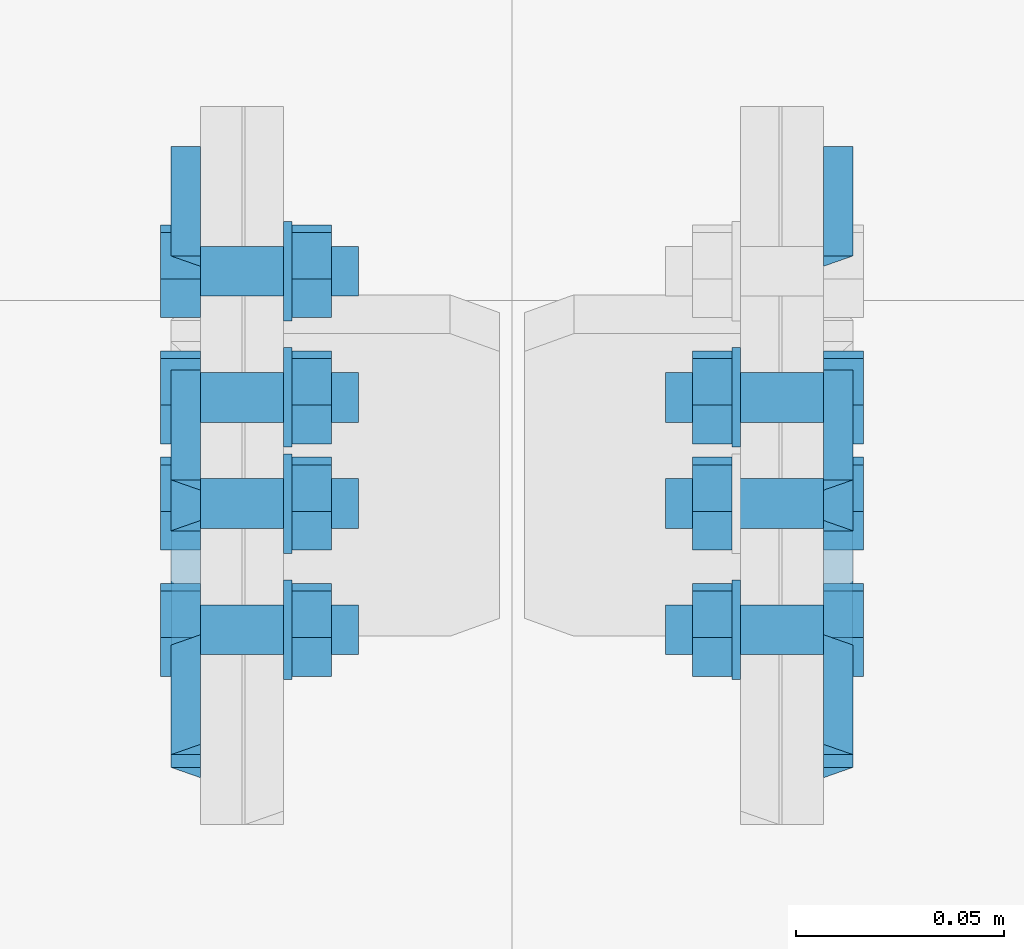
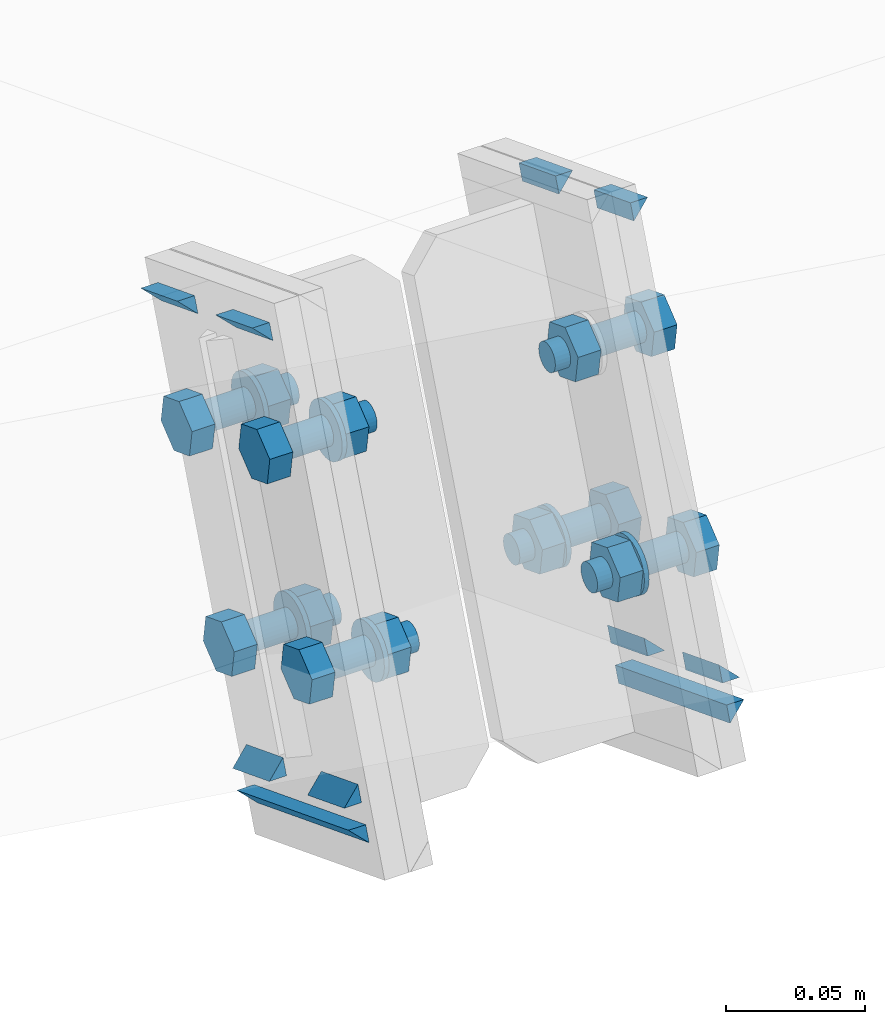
# One storey, part 37 of 72: 27 mechanical fasteners, 20 fasteners.
"""IFC4 building model written with IfcOpenShell, lengths in metres."""

from ifc_helpers import new_model, si_unit, frame, origin_with_axes, place, context, project, spatial, polyline, outline, extrude, type_object, element, save


model = new_model("IFC4")

# Units and contexts
model_context = context("Model", 3, precision=1e-05, world=origin_with_axes())
ifc_project = project(units=[si_unit("LENGTHUNIT", "METRE"), si_unit("AREAUNIT", "SQUARE_METRE"), si_unit("VOLUMEUNIT", "CUBIC_METRE"), si_unit("MASSUNIT", "GRAM", prefix="KILO"), si_unit("TIMEUNIT", "SECOND"), si_unit("PLANEANGLEUNIT", "RADIAN"), si_unit("SOLIDANGLEUNIT", "STERADIAN"), si_unit("THERMODYNAMICTEMPERATUREUNIT", "DEGREE_CELSIUS")], contexts=[model_context])

# Site, building, storey
placement_1 = place(None, origin_with_axes())
site = spatial("IfcSite", under=ifc_project, at=placement_1, Name="Italia", CompositionType="ELEMENT")
building = spatial("IfcBuilding", under=site, at=placement_1, Name="Uffici", CompositionType="ELEMENT")
storey = spatial("IfcBuildingStorey", under=building, at=placement_1, Name="Storey 0", CompositionType="ELEMENT", Elevation=0.0)

# Fasteners
fastener_type_1 = type_object("IfcFastenerType", Name="Collegamento -028_-027", PredefinedType="WELD")
placement_2 = place(placement_1, origin_with_axes())
fastener_1_placement = place(placement_2, origin_with_axes())
element("IfcFastener", 1, at=fastener_1_placement, inside=storey, type_object=fastener_type_1, Name="Collegamento -028_-027", context=model_context, shape_type="SweptSolid", body=[
    extrude(outline(polyline([(0.0, 0.0), (-0.00717354, 0.00695848), (0.0, 0.00695848), (0.0, 0.0)])), frame((6.68005, 1.6679, 6.57674), z_axis=(0.0, -0.932384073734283, 0.361469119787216), x_axis=(1.0, 0.0, 0.0)), (0.0, 0.0, 1.0), 0.0283),
])
fastener_type_2 = type_object("IfcFastenerType", Name="Collegamento -028_-027", PredefinedType="WELD")
fastener_2_placement = place(placement_2, origin_with_axes())
element("IfcFastener", 2, at=fastener_2_placement, inside=storey, type_object=fastener_type_2, Name="Collegamento -028_-027", context=model_context, shape_type="SweptSolid", body=[
    extrude(outline(polyline([(0.0, 0.0), (0.00717354, -0.00695848), (0.0, -0.00695848), (0.0, 0.0)])), frame((6.68005, 1.58036, 6.42922), z_axis=(0.0, 0.932390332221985, -0.361453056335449), x_axis=(-1.0, 0.0, 0.0)), (0.0, 0.0, 1.0), 0.0283),
])
fastener_type_3 = type_object("IfcFastenerType", Name="Collegamento -028_-027", PredefinedType="WELD")
fastener_3_placement = place(placement_2, origin_with_axes())
element("IfcFastener", 3, at=fastener_3_placement, inside=storey, type_object=fastener_type_3, Name="Collegamento -028_-027", context=model_context, shape_type="SweptSolid", body=[
    extrude(outline(polyline([(0.0, 0.0), (-0.00717354, 0.00695753), (0.0, 0.00695753), (0.0, 0.0)])), frame((6.68005, 1.59868, 6.39819), z_axis=(0.0, -0.932389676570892, 0.361454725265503), x_axis=(1.0, 0.0, 0.0)), (0.0, 0.0, 1.0), 0.0861),
])
fastener_type_4 = type_object("IfcFastenerType", Name="Collegamento -028_-027", PredefinedType="WELD")
fastener_4_placement = place(placement_2, origin_with_axes())
element("IfcFastener", 4, at=fastener_4_placement, inside=storey, type_object=fastener_type_4, Name="Collegamento -028_-027", context=model_context, shape_type="SweptSolid", body=[
    extrude(outline(polyline([(0.0, 0.0), (0.00717354, -0.00695848), (0.0, -0.00695848), (0.0, 0.0)])), frame((6.68005, 1.52647, 6.45012), z_axis=(0.0, 0.932391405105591, -0.3614501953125), x_axis=(-1.0, 0.0, 0.0)), (0.0, 0.0, 1.0), 0.0283002),
])
fastener_type_5 = type_object("IfcFastenerType", Name="Collegamento -028_-027", PredefinedType="WELD")
fastener_5_placement = place(placement_2, origin_with_axes())
element("IfcFastener", 5, at=fastener_5_placement, inside=storey, type_object=fastener_type_5, Name="Collegamento -028_-027", context=model_context, shape_type="SweptSolid", body=[
    extrude(outline(polyline([(0.0, 0.0), (-0.00717354, 0.00695753), (0.0, 0.00695753), (0.0, 0.0)])), frame((6.68005, 1.61401, 6.59763), z_axis=(0.0, -0.932389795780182, 0.361454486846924), x_axis=(1.0, 0.0, 0.0)), (0.0, 0.0, 1.0), 0.0282999),
])
fastener_type_6 = type_object("IfcFastenerType", Name="Collegamento -028_-027", PredefinedType="WELD")
fastener_6_placement = place(placement_2, origin_with_axes())
element("IfcFastener", 6, at=fastener_6_placement, inside=storey, type_object=fastener_type_6, Name="Collegamento -028_-027", context=model_context, shape_type="SweptSolid", body=[
    extrude(outline(polyline([(0.0, 0.0), (-0.00717354, 0.00695848), (0.0, 0.00695848), (0.0, 0.0)])), frame((6.68005, 1.6679, 6.57674), z_axis=(0.0, -0.932384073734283, 0.361469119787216), x_axis=(1.0, 0.0, 0.0)), (0.0, 0.0, 1.0), 0.0283),
])
fastener_type_7 = type_object("IfcFastenerType", Name="Collegamento -028_-027", PredefinedType="WELD")
fastener_7_placement = place(placement_2, origin_with_axes())
element("IfcFastener", 7, at=fastener_7_placement, inside=storey, type_object=fastener_type_7, Name="Collegamento -028_-027", context=model_context, shape_type="SweptSolid", body=[
    extrude(outline(polyline([(0.0, 0.0), (0.00717354, -0.00695848), (0.0, -0.00695848), (0.0, 0.0)])), frame((6.68005, 1.58036, 6.42922), z_axis=(0.0, 0.932390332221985, -0.361453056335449), x_axis=(-1.0, 0.0, 0.0)), (0.0, 0.0, 1.0), 0.0283),
])
fastener_type_8 = type_object("IfcFastenerType", Name="Collegamento -028_-027", PredefinedType="WELD")
fastener_8_placement = place(placement_2, origin_with_axes())
element("IfcFastener", 8, at=fastener_8_placement, inside=storey, type_object=fastener_type_8, Name="Collegamento -028_-027", context=model_context, shape_type="SweptSolid", body=[
    extrude(outline(polyline([(0.0, 0.0), (-0.00717354, 0.00695753), (0.0, 0.00695753), (0.0, 0.0)])), frame((6.68005, 1.59868, 6.39819), z_axis=(0.0, -0.932389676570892, 0.361454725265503), x_axis=(1.0, 0.0, 0.0)), (0.0, 0.0, 1.0), 0.0861),
])
fastener_type_9 = type_object("IfcFastenerType", Name="Collegamento -028_-027", PredefinedType="WELD")
fastener_9_placement = place(placement_2, origin_with_axes())
element("IfcFastener", 9, at=fastener_9_placement, inside=storey, type_object=fastener_type_9, Name="Collegamento -028_-027", context=model_context, shape_type="SweptSolid", body=[
    extrude(outline(polyline([(0.0, 0.0), (0.00717354, -0.00695848), (0.0, -0.00695848), (0.0, 0.0)])), frame((6.68005, 1.52647, 6.45012), z_axis=(0.0, 0.932391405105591, -0.3614501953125), x_axis=(-1.0, 0.0, 0.0)), (0.0, 0.0, 1.0), 0.0283002),
])
fastener_type_10 = type_object("IfcFastenerType", Name="Collegamento -028_-027", PredefinedType="WELD")
fastener_10_placement = place(placement_2, origin_with_axes())
element("IfcFastener", 10, at=fastener_10_placement, inside=storey, type_object=fastener_type_10, Name="Collegamento -028_-027", context=model_context, shape_type="SweptSolid", body=[
    extrude(outline(polyline([(0.0, 0.0), (-0.00717354, 0.00695753), (0.0, 0.00695753), (0.0, 0.0)])), frame((6.68005, 1.61401, 6.59763), z_axis=(0.0, -0.932389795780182, 0.361454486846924), x_axis=(1.0, 0.0, 0.0)), (0.0, 0.0, 1.0), 0.0282999),
])

# Mechanical fasteners
mechanical_fastener_type_1 = type_object("IfcMechanicalFastenerType", Name="Collegamento -028_-027", PredefinedType="BOLT")
mechanical_fastener_1_placement = place(placement_2, origin_with_axes())
element("IfcMechanicalFastener", 11, at=mechanical_fastener_1_placement, inside=storey, type_object=mechanical_fastener_type_1, Name="Collegamento -028_-027", NominalDiameter=0.0119998, context=model_context, shape_type="SweptSolid", body=[
    extrude(outline(polyline([(0.0, 0.0), (-0.0111887, -0.00433731), (-0.0205394, 0.00318336), (-0.0187016, 0.0150418), (-0.00751293, 0.0193796), (0.00183785, 0.0118585), (0.0, 0.0)])), frame((6.68, 1.60063, 6.4559), z_axis=(-1.0, 0.0, 0.0), x_axis=(0.0, -1.0, 0.0)), (0.0, 0.0, 1.0), 0.00960016),
])
mechanical_fastener_type_2 = type_object("IfcMechanicalFastenerType", Name="Collegamento -028_-027", PredefinedType="BOLT")
mechanical_fastener_2_placement = place(placement_2, origin_with_axes())
element("IfcMechanicalFastener", 12, at=mechanical_fastener_2_placement, inside=storey, type_object=mechanical_fastener_type_2, Name="Collegamento -028_-027", NominalDiameter=0.012, context=model_context, shape_type="SweptSolid", body=[
    extrude(outline(polyline([(0.0, 0.0), (-0.000204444, -0.00155306), (-0.000803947, -0.00299978), (-0.00175738, -0.00424242), (-0.00300002, -0.00519609), (-0.0044471, -0.00579548), (-0.00600004, -0.00600004), (-0.00755298, -0.00579548), (-0.00900006, -0.00519609), (-0.0102427, -0.00424242), (-0.0111961, -0.00299978), (-0.0117956, -0.00155306), (-0.0120001, 0.0), (-0.0117956, 0.00155306), (-0.0111961, 0.00299978), (-0.0102427, 0.00424242), (-0.00900006, 0.00519609), (-0.00755298, 0.00579548), (-0.00600004, 0.00600004), (-0.0044471, 0.00579548), (-0.00300002, 0.00519609), (-0.00175738, 0.00424242), (-0.000803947, 0.00299978), (-0.000204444, 0.00155306), (0.0, 0.0)])), frame((6.718, 1.60398, 6.46342), z_axis=(-1.0, 0.0, 0.0), x_axis=(0.0, -1.0, 0.0)), (0.0, 0.0, 1.0), 0.0380001),
])
mechanical_fastener_type_3 = type_object("IfcMechanicalFastenerType", Name="Collegamento -028_-027", PredefinedType="BOLT")
mechanical_fastener_3_placement = place(placement_2, origin_with_axes())
element("IfcMechanicalFastener", 13, at=mechanical_fastener_3_placement, inside=storey, type_object=mechanical_fastener_type_3, Name="Collegamento -028_-027", NominalDiameter=0.0119998, context=model_context, shape_type="SweptSolid", body=[
    extrude(outline(polyline([(0.0, 0.0), (-0.0111887, -0.00433731), (-0.0205394, 0.00318336), (-0.0187016, 0.0150418), (-0.00751293, 0.0193796), (0.00183785, 0.0118585), (0.0, 0.0)])), frame((6.7116, 1.60063, 6.4559), z_axis=(-1.0, 0.0, 0.0), x_axis=(0.0, -1.0, 0.0)), (0.0, 0.0, 1.0), 0.00960016),
])
mechanical_fastener_type_4 = type_object("IfcMechanicalFastenerType", Name="Collegamento -028_-027", PredefinedType="BOLT")
mechanical_fastener_4_placement = place(placement_2, origin_with_axes())
element("IfcMechanicalFastener", 14, at=mechanical_fastener_4_placement, inside=storey, type_object=mechanical_fastener_type_4, Name="Collegamento -028_-027", NominalDiameter=0.024, context=model_context, shape_type="SweptSolid", body=[
    extrude(outline(polyline([(0.0, 0.0), (-0.000408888, -0.00310564), (-0.00160766, -0.00600004), (-0.00351465, -0.00848532), (-0.00599992, -0.0103922), (-0.00889409, -0.011591), (-0.012, -0.0120001), (-0.0151058, -0.011591), (-0.018, -0.0103922), (-0.0204853, -0.00848532), (-0.0223923, -0.00600004), (-0.023591, -0.00310564), (-0.0239999, 0.0), (-0.023591, 0.00310564), (-0.0223923, 0.00600004), (-0.0204853, 0.00848532), (-0.018, 0.0103922), (-0.0151058, 0.011591), (-0.012, 0.0120001), (-0.00889409, 0.011591), (-0.00599992, 0.0103922), (-0.00351465, 0.00848532), (-0.00160766, 0.00600004), (-0.000408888, 0.00310564), (0.0, 0.0)])), frame((6.702, 1.59798, 6.46342), z_axis=(-1.0, 0.0, 0.0), x_axis=(0.0, -1.0, 0.0)), (0.0, 0.0, 1.0), 0.00199986),
])
mechanical_fastener_type_5 = type_object("IfcMechanicalFastenerType", Name="Collegamento -028_-027", PredefinedType="BOLT")
mechanical_fastener_5_placement = place(placement_2, origin_with_axes())
element("IfcMechanicalFastener", 15, at=mechanical_fastener_5_placement, inside=storey, type_object=mechanical_fastener_type_5, Name="Collegamento -028_-027", NominalDiameter=0.0119999, context=model_context, shape_type="SweptSolid", body=[
    extrude(outline(polyline([(0.0, 0.0), (-0.0111886, -0.00433779), (-0.0205393, 0.00318336), (-0.0187014, 0.0150418), (-0.00751281, 0.0193791), (0.00183797, 0.0118585), (0.0, 0.0)])), frame((6.68, 1.54468, 6.47759), z_axis=(-1.0, 0.0, 0.0), x_axis=(0.0, -1.0, 0.0)), (0.0, 0.0, 1.0), 0.00960016),
])
mechanical_fastener_type_6 = type_object("IfcMechanicalFastenerType", Name="Collegamento -028_-027", PredefinedType="BOLT")
mechanical_fastener_6_placement = place(placement_2, origin_with_axes())
element("IfcMechanicalFastener", 16, at=mechanical_fastener_6_placement, inside=storey, type_object=mechanical_fastener_type_6, Name="Collegamento -028_-027", NominalDiameter=0.012, context=model_context, shape_type="SweptSolid", body=[
    extrude(outline(polyline([(0.0, 0.0), (-0.000204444, -0.00155306), (-0.000803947, -0.00299978), (-0.00175738, -0.00424242), (-0.00300002, -0.00519609), (-0.0044471, -0.00579548), (-0.00600004, -0.00600004), (-0.00755298, -0.00579548), (-0.00900006, -0.00519609), (-0.0102427, -0.00424242), (-0.0111961, -0.00299978), (-0.0117956, -0.00155306), (-0.0120001, 0.0), (-0.0117956, 0.00155306), (-0.0111961, 0.00299978), (-0.0102427, 0.00424242), (-0.00900006, 0.00519609), (-0.00755298, 0.00579548), (-0.00600004, 0.00600004), (-0.0044471, 0.00579548), (-0.00300002, 0.00519609), (-0.00175738, 0.00424242), (-0.000803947, 0.00299978), (-0.000204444, 0.00155306), (0.0, 0.0)])), frame((6.718, 1.54803, 6.48511), z_axis=(-1.0, 0.0, 0.0), x_axis=(0.0, -1.0, 0.0)), (0.0, 0.0, 1.0), 0.0380001),
])
mechanical_fastener_type_7 = type_object("IfcMechanicalFastenerType", Name="Collegamento -028_-027", PredefinedType="BOLT")
mechanical_fastener_7_placement = place(placement_2, origin_with_axes())
element("IfcMechanicalFastener", 17, at=mechanical_fastener_7_placement, inside=storey, type_object=mechanical_fastener_type_7, Name="Collegamento -028_-027", NominalDiameter=0.0119999, context=model_context, shape_type="SweptSolid", body=[
    extrude(outline(polyline([(0.0, 0.0), (-0.0111886, -0.00433779), (-0.0205393, 0.00318336), (-0.0187014, 0.0150418), (-0.00751281, 0.0193791), (0.00183797, 0.0118585), (0.0, 0.0)])), frame((6.7116, 1.54468, 6.47759), z_axis=(-1.0, 0.0, 0.0), x_axis=(0.0, -1.0, 0.0)), (0.0, 0.0, 1.0), 0.00960016),
])
mechanical_fastener_type_8 = type_object("IfcMechanicalFastenerType", Name="Collegamento -028_-027", PredefinedType="BOLT")
mechanical_fastener_8_placement = place(placement_2, origin_with_axes())
element("IfcMechanicalFastener", 18, at=mechanical_fastener_8_placement, inside=storey, type_object=mechanical_fastener_type_8, Name="Collegamento -028_-027", NominalDiameter=0.024, context=model_context, shape_type="SweptSolid", body=[
    extrude(outline(polyline([(0.0, 0.0), (-0.000408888, -0.00310564), (-0.00160766, -0.00600004), (-0.00351465, -0.00848532), (-0.00599992, -0.0103922), (-0.00889409, -0.011591), (-0.012, -0.0120001), (-0.0151058, -0.011591), (-0.018, -0.0103922), (-0.0204853, -0.00848532), (-0.0223923, -0.00600004), (-0.023591, -0.00310564), (-0.0239999, 0.0), (-0.023591, 0.00310564), (-0.0223923, 0.00600004), (-0.0204853, 0.00848532), (-0.018, 0.0103922), (-0.0151058, 0.011591), (-0.012, 0.0120001), (-0.00889409, 0.011591), (-0.00599992, 0.0103922), (-0.00351465, 0.00848532), (-0.00160766, 0.00600004), (-0.000408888, 0.00310564), (0.0, 0.0)])), frame((6.702, 1.54203, 6.48511), z_axis=(-1.0, 0.0, 0.0), x_axis=(0.0, -1.0, 0.0)), (0.0, 0.0, 1.0), 0.00199986),
])
mechanical_fastener_type_9 = type_object("IfcMechanicalFastenerType", Name="Collegamento -028_-027", PredefinedType="BOLT")
mechanical_fastener_9_placement = place(placement_2, origin_with_axes())
element("IfcMechanicalFastener", 19, at=mechanical_fastener_9_placement, inside=storey, type_object=mechanical_fastener_type_9, Name="Collegamento -028_-027", NominalDiameter=0.0119999, context=model_context, shape_type="SweptSolid", body=[
    extrude(outline(polyline([(0.0, 0.0), (-0.0111886, -0.00433731), (-0.0205394, 0.00318336), (-0.0187014, 0.0150418), (-0.00751281, 0.0193796), (0.00183785, 0.0118585), (0.0, 0.0)])), frame((6.68, 1.63099, 6.53422), z_axis=(-1.0, 0.0, 0.0), x_axis=(0.0, -1.0, 0.0)), (0.0, 0.0, 1.0), 0.00960016),
])
mechanical_fastener_type_10 = type_object("IfcMechanicalFastenerType", Name="Collegamento -028_-027", PredefinedType="BOLT")
mechanical_fastener_10_placement = place(placement_2, origin_with_axes())
element("IfcMechanicalFastener", 20, at=mechanical_fastener_10_placement, inside=storey, type_object=mechanical_fastener_type_10, Name="Collegamento -028_-027", NominalDiameter=0.012, context=model_context, shape_type="SweptSolid", body=[
    extrude(outline(polyline([(0.0, 0.0), (-0.000204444, -0.00155306), (-0.000803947, -0.00299978), (-0.00175738, -0.00424242), (-0.00300002, -0.00519609), (-0.0044471, -0.00579548), (-0.00600004, -0.00600004), (-0.00755298, -0.00579548), (-0.00900006, -0.00519609), (-0.0102427, -0.00424242), (-0.0111961, -0.00299978), (-0.0117956, -0.00155306), (-0.0120001, 0.0), (-0.0117956, 0.00155306), (-0.0111961, 0.00299978), (-0.0102427, 0.00424242), (-0.00900006, 0.00519609), (-0.00755298, 0.00579548), (-0.00600004, 0.00600004), (-0.0044471, 0.00579548), (-0.00300002, 0.00519609), (-0.00175738, 0.00424242), (-0.000803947, 0.00299978), (-0.000204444, 0.00155306), (0.0, 0.0)])), frame((6.718, 1.63434, 6.54174), z_axis=(-1.0, 0.0, 0.0), x_axis=(0.0, -1.0, 0.0)), (0.0, 0.0, 1.0), 0.0380001),
])
mechanical_fastener_type_11 = type_object("IfcMechanicalFastenerType", Name="Collegamento -028_-027", PredefinedType="BOLT")
mechanical_fastener_11_placement = place(placement_2, origin_with_axes())
element("IfcMechanicalFastener", 21, at=mechanical_fastener_11_placement, inside=storey, type_object=mechanical_fastener_type_11, Name="Collegamento -028_-027", NominalDiameter=0.0119999, context=model_context, shape_type="SweptSolid", body=[
    extrude(outline(polyline([(0.0, 0.0), (-0.0111886, -0.00433731), (-0.0205394, 0.00318336), (-0.0187014, 0.0150418), (-0.00751281, 0.0193796), (0.00183785, 0.0118585), (0.0, 0.0)])), frame((6.7116, 1.63099, 6.53422), z_axis=(-1.0, 0.0, 0.0), x_axis=(0.0, -1.0, 0.0)), (0.0, 0.0, 1.0), 0.00960016),
])
mechanical_fastener_type_12 = type_object("IfcMechanicalFastenerType", Name="Collegamento -028_-027", PredefinedType="BOLT")
mechanical_fastener_12_placement = place(placement_2, origin_with_axes())
element("IfcMechanicalFastener", 22, at=mechanical_fastener_12_placement, inside=storey, type_object=mechanical_fastener_type_12, Name="Collegamento -028_-027", NominalDiameter=0.024, context=model_context, shape_type="SweptSolid", body=[
    extrude(outline(polyline([(0.0, 0.0), (-0.000408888, -0.00310564), (-0.00160766, -0.00600004), (-0.00351465, -0.00848532), (-0.00599992, -0.0103922), (-0.00889409, -0.011591), (-0.012, -0.0120001), (-0.0151058, -0.011591), (-0.018, -0.0103922), (-0.0204853, -0.00848532), (-0.0223923, -0.00600004), (-0.023591, -0.00310564), (-0.0239999, 0.0), (-0.023591, 0.00310564), (-0.0223923, 0.00600004), (-0.0204853, 0.00848532), (-0.018, 0.0103922), (-0.0151058, 0.011591), (-0.012, 0.0120001), (-0.00889409, 0.011591), (-0.00599992, 0.0103922), (-0.00351465, 0.00848532), (-0.00160766, 0.00600004), (-0.000408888, 0.00310564), (0.0, 0.0)])), frame((6.702, 1.62834, 6.54174), z_axis=(-1.0, 0.0, 0.0), x_axis=(0.0, -1.0, 0.0)), (0.0, 0.0, 1.0), 0.00199986),
])
mechanical_fastener_type_13 = type_object("IfcMechanicalFastenerType", Name="Collegamento -028_-027", PredefinedType="BOLT")
mechanical_fastener_13_placement = place(placement_2, origin_with_axes())
element("IfcMechanicalFastener", 23, at=mechanical_fastener_13_placement, inside=storey, type_object=mechanical_fastener_type_13, Name="Collegamento -028_-027", NominalDiameter=0.0119998, context=model_context, shape_type="SweptSolid", body=[
    extrude(outline(polyline([(0.0, 0.0), (-0.0111886, -0.00433779), (-0.0205394, 0.00318336), (-0.0187016, 0.0150418), (-0.00751281, 0.0193791), (0.00183785, 0.0118585), (0.0, 0.0)])), frame((6.68, 1.57505, 6.55591), z_axis=(-1.0, 0.0, 0.0), x_axis=(0.0, -1.0, 0.0)), (0.0, 0.0, 1.0), 0.00960016),
])
mechanical_fastener_type_14 = type_object("IfcMechanicalFastenerType", Name="Collegamento -028_-027", PredefinedType="BOLT")
mechanical_fastener_14_placement = place(placement_2, origin_with_axes())
element("IfcMechanicalFastener", 24, at=mechanical_fastener_14_placement, inside=storey, type_object=mechanical_fastener_type_14, Name="Collegamento -028_-027", NominalDiameter=0.012, context=model_context, shape_type="SweptSolid", body=[
    extrude(outline(polyline([(0.0, 0.0), (-0.000204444, -0.00155306), (-0.000803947, -0.00299978), (-0.00175738, -0.00424242), (-0.00300002, -0.00519609), (-0.0044471, -0.00579548), (-0.00600004, -0.00600004), (-0.00755298, -0.00579548), (-0.00900006, -0.00519609), (-0.0102427, -0.00424242), (-0.0111961, -0.00299978), (-0.0117956, -0.00155306), (-0.0120001, 0.0), (-0.0117956, 0.00155306), (-0.0111961, 0.00299978), (-0.0102427, 0.00424242), (-0.00900006, 0.00519609), (-0.00755298, 0.00579548), (-0.00600004, 0.00600004), (-0.0044471, 0.00579548), (-0.00300002, 0.00519609), (-0.00175738, 0.00424242), (-0.000803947, 0.00299978), (-0.000204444, 0.00155306), (0.0, 0.0)])), frame((6.718, 1.5784, 6.56343), z_axis=(-1.0, 0.0, 0.0), x_axis=(0.0, -1.0, 0.0)), (0.0, 0.0, 1.0), 0.0380001),
])
mechanical_fastener_type_15 = type_object("IfcMechanicalFastenerType", Name="Collegamento -028_-027", PredefinedType="BOLT")
mechanical_fastener_15_placement = place(placement_2, origin_with_axes())
element("IfcMechanicalFastener", 25, at=mechanical_fastener_15_placement, inside=storey, type_object=mechanical_fastener_type_15, Name="Collegamento -028_-027", NominalDiameter=0.0119998, context=model_context, shape_type="SweptSolid", body=[
    extrude(outline(polyline([(0.0, 0.0), (-0.0111886, -0.00433779), (-0.0205394, 0.00318336), (-0.0187016, 0.0150418), (-0.00751281, 0.0193791), (0.00183785, 0.0118585), (0.0, 0.0)])), frame((6.7116, 1.57505, 6.55591), z_axis=(-1.0, 0.0, 0.0), x_axis=(0.0, -1.0, 0.0)), (0.0, 0.0, 1.0), 0.00960016),
])
mechanical_fastener_type_16 = type_object("IfcMechanicalFastenerType", Name="Collegamento -028_-027", PredefinedType="BOLT")
mechanical_fastener_16_placement = place(placement_2, origin_with_axes())
element("IfcMechanicalFastener", 26, at=mechanical_fastener_16_placement, inside=storey, type_object=mechanical_fastener_type_16, Name="Collegamento -028_-027", NominalDiameter=0.024, context=model_context, shape_type="SweptSolid", body=[
    extrude(outline(polyline([(0.0, 0.0), (-0.000408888, -0.00310564), (-0.00160766, -0.00600004), (-0.00351465, -0.00848532), (-0.00599992, -0.0103922), (-0.00889409, -0.011591), (-0.012, -0.0120001), (-0.0151058, -0.011591), (-0.018, -0.0103922), (-0.0204853, -0.00848532), (-0.0223923, -0.00600004), (-0.023591, -0.00310564), (-0.0239999, 0.0), (-0.023591, 0.00310564), (-0.0223923, 0.00600004), (-0.0204853, 0.00848532), (-0.018, 0.0103922), (-0.0151058, 0.011591), (-0.012, 0.0120001), (-0.00889409, 0.011591), (-0.00599992, 0.0103922), (-0.00351465, 0.00848532), (-0.00160766, 0.00600004), (-0.000408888, 0.00310564), (0.0, 0.0)])), frame((6.702, 1.5724, 6.56343), z_axis=(-1.0, 0.0, 0.0), x_axis=(0.0, -1.0, 0.0)), (0.0, 0.0, 1.0), 0.00199986),
])

# Fasteners
fastener_type_11 = type_object("IfcFastenerType", Name="Collegamento -028_-029", PredefinedType="WELD")
fastener_11_placement = place(placement_2, origin_with_axes())
element("IfcFastener", 27, at=fastener_11_placement, inside=storey, type_object=fastener_type_11, Name="Collegamento -028_-029", context=model_context, shape_type="SweptSolid", body=[
    extrude(outline(polyline([(0.0, 0.0), (-0.00717354, 0.00695801), (0.0, 0.00695801), (0.0, 0.0)])), frame((6.82995, 1.64152, 6.58697), z_axis=(0.0, 0.932384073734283, -0.361469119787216), x_axis=(-1.0, 0.0, 0.0)), (0.0, 0.0, 1.0), 0.0283),
])
fastener_type_12 = type_object("IfcFastenerType", Name="Collegamento -028_-029", PredefinedType="WELD")
fastener_12_placement = place(placement_2, origin_with_axes())
element("IfcFastener", 28, at=fastener_12_placement, inside=storey, type_object=fastener_type_12, Name="Collegamento -028_-029", context=model_context, shape_type="SweptSolid", body=[
    extrude(outline(polyline([(0.0, 0.0), (0.00717354, -0.00695848), (0.0, -0.00695848), (0.0, 0.0)])), frame((6.82995, 1.60675, 6.41899), z_axis=(0.0, -0.932390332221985, 0.361453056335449), x_axis=(1.0, 0.0, 0.0)), (0.0, 0.0, 1.0), 0.0283),
])
fastener_type_13 = type_object("IfcFastenerType", Name="Collegamento -028_-029", PredefinedType="WELD")
fastener_13_placement = place(placement_2, origin_with_axes())
element("IfcFastener", 29, at=fastener_13_placement, inside=storey, type_object=fastener_type_13, Name="Collegamento -028_-029", context=model_context, shape_type="SweptSolid", body=[
    extrude(outline(polyline([(0.0, 0.0), (-0.00717354, 0.00695848), (0.0, 0.00695848), (0.0, 0.0)])), frame((6.82995, 1.5184, 6.42931), z_axis=(0.0, 0.932389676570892, -0.361454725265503), x_axis=(-1.0, 0.0, 0.0)), (0.0, 0.0, 1.0), 0.0861),
])
fastener_type_14 = type_object("IfcFastenerType", Name="Collegamento -028_-029", PredefinedType="WELD")
fastener_14_placement = place(placement_2, origin_with_axes())
element("IfcFastener", 30, at=fastener_14_placement, inside=storey, type_object=fastener_type_14, Name="Collegamento -028_-029", context=model_context, shape_type="SweptSolid", body=[
    extrude(outline(polyline([(0.0, 0.0), (0.00717354, -0.00695801), (0.0, -0.00695801), (0.0, 0.0)])), frame((6.82995, 1.55286, 6.43989), z_axis=(0.0, -0.932391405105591, 0.3614501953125), x_axis=(1.0, 0.0, 0.0)), (0.0, 0.0, 1.0), 0.0283002),
])
fastener_type_15 = type_object("IfcFastenerType", Name="Collegamento -028_-029", PredefinedType="WELD")
fastener_15_placement = place(placement_2, origin_with_axes())
element("IfcFastener", 31, at=fastener_15_placement, inside=storey, type_object=fastener_type_15, Name="Collegamento -028_-029", context=model_context, shape_type="SweptSolid", body=[
    extrude(outline(polyline([(0.0, 0.0), (-0.00717354, 0.00695801), (0.0, 0.00695801), (0.0, 0.0)])), frame((6.82995, 1.58762, 6.60786), z_axis=(0.0, 0.932389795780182, -0.361454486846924), x_axis=(-1.0, 0.0, 0.0)), (0.0, 0.0, 1.0), 0.0282999),
])
fastener_type_16 = type_object("IfcFastenerType", Name="Collegamento -028_-029", PredefinedType="WELD")
fastener_16_placement = place(placement_2, origin_with_axes())
element("IfcFastener", 32, at=fastener_16_placement, inside=storey, type_object=fastener_type_16, Name="Collegamento -028_-029", context=model_context, shape_type="SweptSolid", body=[
    extrude(outline(polyline([(0.0, 0.0), (-0.00717354, 0.00695801), (0.0, 0.00695801), (0.0, 0.0)])), frame((6.82995, 1.64152, 6.58697), z_axis=(0.0, 0.932384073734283, -0.361469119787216), x_axis=(-1.0, 0.0, 0.0)), (0.0, 0.0, 1.0), 0.0283),
])
fastener_type_17 = type_object("IfcFastenerType", Name="Collegamento -028_-029", PredefinedType="WELD")
fastener_17_placement = place(placement_2, origin_with_axes())
element("IfcFastener", 33, at=fastener_17_placement, inside=storey, type_object=fastener_type_17, Name="Collegamento -028_-029", context=model_context, shape_type="SweptSolid", body=[
    extrude(outline(polyline([(0.0, 0.0), (0.00717354, -0.00695848), (0.0, -0.00695848), (0.0, 0.0)])), frame((6.82995, 1.60675, 6.41899), z_axis=(0.0, -0.932390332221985, 0.361453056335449), x_axis=(1.0, 0.0, 0.0)), (0.0, 0.0, 1.0), 0.0283),
])
fastener_type_18 = type_object("IfcFastenerType", Name="Collegamento -028_-029", PredefinedType="WELD")
fastener_18_placement = place(placement_2, origin_with_axes())
element("IfcFastener", 34, at=fastener_18_placement, inside=storey, type_object=fastener_type_18, Name="Collegamento -028_-029", context=model_context, shape_type="SweptSolid", body=[
    extrude(outline(polyline([(0.0, 0.0), (-0.00717354, 0.00695848), (0.0, 0.00695848), (0.0, 0.0)])), frame((6.82995, 1.5184, 6.42931), z_axis=(0.0, 0.932389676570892, -0.361454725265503), x_axis=(-1.0, 0.0, 0.0)), (0.0, 0.0, 1.0), 0.0861),
])
fastener_type_19 = type_object("IfcFastenerType", Name="Collegamento -028_-029", PredefinedType="WELD")
fastener_19_placement = place(placement_2, origin_with_axes())
element("IfcFastener", 35, at=fastener_19_placement, inside=storey, type_object=fastener_type_19, Name="Collegamento -028_-029", context=model_context, shape_type="SweptSolid", body=[
    extrude(outline(polyline([(0.0, 0.0), (0.00717354, -0.00695801), (0.0, -0.00695801), (0.0, 0.0)])), frame((6.82995, 1.55286, 6.43989), z_axis=(0.0, -0.932391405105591, 0.3614501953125), x_axis=(1.0, 0.0, 0.0)), (0.0, 0.0, 1.0), 0.0283002),
])
fastener_type_20 = type_object("IfcFastenerType", Name="Collegamento -028_-029", PredefinedType="WELD")
fastener_20_placement = place(placement_2, origin_with_axes())
element("IfcFastener", 36, at=fastener_20_placement, inside=storey, type_object=fastener_type_20, Name="Collegamento -028_-029", context=model_context, shape_type="SweptSolid", body=[
    extrude(outline(polyline([(0.0, 0.0), (-0.00717354, 0.00695801), (0.0, 0.00695801), (0.0, 0.0)])), frame((6.82995, 1.58762, 6.60786), z_axis=(0.0, 0.932389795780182, -0.361454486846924), x_axis=(-1.0, 0.0, 0.0)), (0.0, 0.0, 1.0), 0.0282999),
])

# Mechanical fasteners
mechanical_fastener_type_17 = type_object("IfcMechanicalFastenerType", Name="Collegamento -028_-029", PredefinedType="BOLT")
mechanical_fastener_17_placement = place(placement_2, origin_with_axes())
element("IfcMechanicalFastener", 37, at=mechanical_fastener_17_placement, inside=storey, type_object=mechanical_fastener_type_17, Name="Collegamento -028_-029", NominalDiameter=0.0119999, context=model_context, shape_type="SweptSolid", body=[
    extrude(outline(polyline([(0.0, 0.0), (-0.0111886, 0.00433779), (-0.0130266, 0.0161963), (-0.00367582, 0.0237169), (0.00751281, 0.0193796), (0.00935066, 0.00752115), (0.0, 0.0)])), frame((6.83, 1.55587, 6.47325), z_axis=(1.0, 0.0, 0.0), x_axis=(0.0, 1.0, 0.0)), (0.0, 0.0, 1.0), 0.00960016),
])
mechanical_fastener_type_18 = type_object("IfcMechanicalFastenerType", Name="Collegamento -028_-029", PredefinedType="BOLT")
mechanical_fastener_18_placement = place(placement_2, origin_with_axes())
element("IfcMechanicalFastener", 38, at=mechanical_fastener_18_placement, inside=storey, type_object=mechanical_fastener_type_18, Name="Collegamento -028_-029", NominalDiameter=0.012, context=model_context, shape_type="SweptSolid", body=[
    extrude(outline(polyline([(0.0, 0.0), (-0.000204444, -0.00155306), (-0.000803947, -0.00299978), (-0.00175738, -0.00424242), (-0.00300002, -0.00519609), (-0.0044471, -0.00579548), (-0.00600004, -0.00600004), (-0.00755298, -0.00579548), (-0.00900006, -0.00519609), (-0.0102427, -0.00424242), (-0.0111961, -0.00299978), (-0.0117956, -0.00155306), (-0.0120001, 0.0), (-0.0117956, 0.00155306), (-0.0111961, 0.00299978), (-0.0102427, 0.00424242), (-0.00900006, 0.00519609), (-0.00755298, 0.00579548), (-0.00600004, 0.00600004), (-0.0044471, 0.00579548), (-0.00300002, 0.00519609), (-0.00175738, 0.00424242), (-0.000803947, 0.00299978), (-0.000204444, 0.00155306), (0.0, 0.0)])), frame((6.792, 1.56003, 6.48511), z_axis=(1.0, 0.0, 0.0), x_axis=(0.0, 1.0, 0.0)), (0.0, 0.0, 1.0), 0.0380001),
])
mechanical_fastener_type_19 = type_object("IfcMechanicalFastenerType", Name="Collegamento -028_-029", PredefinedType="BOLT")
mechanical_fastener_19_placement = place(placement_2, origin_with_axes())
element("IfcMechanicalFastener", 39, at=mechanical_fastener_19_placement, inside=storey, type_object=mechanical_fastener_type_19, Name="Collegamento -028_-029", NominalDiameter=0.0119999, context=model_context, shape_type="SweptSolid", body=[
    extrude(outline(polyline([(0.0, 0.0), (-0.0111886, 0.00433779), (-0.0130266, 0.0161963), (-0.00367582, 0.0237169), (0.00751281, 0.0193796), (0.00935066, 0.00752115), (0.0, 0.0)])), frame((6.7984, 1.55587, 6.47325), z_axis=(1.0, 0.0, 0.0), x_axis=(0.0, 1.0, 0.0)), (0.0, 0.0, 1.0), 0.00960016),
])
mechanical_fastener_type_20 = type_object("IfcMechanicalFastenerType", Name="Collegamento -028_-029", PredefinedType="BOLT")
mechanical_fastener_20_placement = place(placement_2, origin_with_axes())
element("IfcMechanicalFastener", 40, at=mechanical_fastener_20_placement, inside=storey, type_object=mechanical_fastener_type_20, Name="Collegamento -028_-029", NominalDiameter=0.024, context=model_context, shape_type="SweptSolid", body=[
    extrude(outline(polyline([(0.0, 0.0), (-0.000408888, -0.00310564), (-0.00160766, -0.00600004), (-0.00351465, -0.00848532), (-0.00599992, -0.0103922), (-0.00889409, -0.011591), (-0.012, -0.0120001), (-0.0151058, -0.011591), (-0.018, -0.0103922), (-0.0204853, -0.00848532), (-0.0223923, -0.00600004), (-0.023591, -0.00310564), (-0.0239999, 0.0), (-0.023591, 0.00310564), (-0.0223923, 0.00600004), (-0.0204853, 0.00848532), (-0.018, 0.0103922), (-0.0151058, 0.011591), (-0.012, 0.0120001), (-0.00889409, 0.011591), (-0.00599992, 0.0103922), (-0.00351465, 0.00848532), (-0.00160766, 0.00600004), (-0.000408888, 0.00310564), (0.0, 0.0)])), frame((6.808, 1.56603, 6.48511), z_axis=(1.0, 0.0, 0.0), x_axis=(0.0, 1.0, 0.0)), (0.0, 0.0, 1.0), 0.00199986),
])
mechanical_fastener_type_21 = type_object("IfcMechanicalFastenerType", Name="Collegamento -028_-029", PredefinedType="BOLT")
mechanical_fastener_21_placement = place(placement_2, origin_with_axes())
element("IfcMechanicalFastener", 41, at=mechanical_fastener_21_placement, inside=storey, type_object=mechanical_fastener_type_21, Name="Collegamento -028_-029", NominalDiameter=0.0119998, context=model_context, shape_type="SweptSolid", body=[
    extrude(outline(polyline([(0.0, 0.0), (-0.0111887, 0.00433731), (-0.0130266, 0.0161958), (-0.00367582, 0.0237169), (0.00751281, 0.0193791), (0.00935066, 0.00752068), (0.0, 0.0)])), frame((6.83, 1.61182, 6.45157), z_axis=(1.0, 0.0, 0.0), x_axis=(0.0, 1.0, 0.0)), (0.0, 0.0, 1.0), 0.00960016),
])
mechanical_fastener_type_22 = type_object("IfcMechanicalFastenerType", Name="Collegamento -028_-029", PredefinedType="BOLT")
mechanical_fastener_22_placement = place(placement_2, origin_with_axes())
element("IfcMechanicalFastener", 42, at=mechanical_fastener_22_placement, inside=storey, type_object=mechanical_fastener_type_22, Name="Collegamento -028_-029", NominalDiameter=0.012, context=model_context, shape_type="SweptSolid", body=[
    extrude(outline(polyline([(0.0, 0.0), (-0.000204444, -0.00155306), (-0.000803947, -0.00299978), (-0.00175738, -0.00424242), (-0.00300002, -0.00519609), (-0.0044471, -0.00579548), (-0.00600004, -0.00600004), (-0.00755298, -0.00579548), (-0.00900006, -0.00519609), (-0.0102427, -0.00424242), (-0.0111961, -0.00299978), (-0.0117956, -0.00155306), (-0.0120001, 0.0), (-0.0117956, 0.00155306), (-0.0111961, 0.00299978), (-0.0102427, 0.00424242), (-0.00900006, 0.00519609), (-0.00755298, 0.00579548), (-0.00600004, 0.00600004), (-0.0044471, 0.00579548), (-0.00300002, 0.00519609), (-0.00175738, 0.00424242), (-0.000803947, 0.00299978), (-0.000204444, 0.00155306), (0.0, 0.0)])), frame((6.792, 1.61598, 6.46342), z_axis=(1.0, 0.0, 0.0), x_axis=(0.0, 1.0, 0.0)), (0.0, 0.0, 1.0), 0.0380001),
])
mechanical_fastener_type_23 = type_object("IfcMechanicalFastenerType", Name="Collegamento -028_-029", PredefinedType="BOLT")
mechanical_fastener_23_placement = place(placement_2, origin_with_axes())
element("IfcMechanicalFastener", 43, at=mechanical_fastener_23_placement, inside=storey, type_object=mechanical_fastener_type_23, Name="Collegamento -028_-029", NominalDiameter=0.0119998, context=model_context, shape_type="SweptSolid", body=[
    extrude(outline(polyline([(0.0, 0.0), (-0.0111887, 0.00433731), (-0.0130266, 0.0161958), (-0.00367582, 0.0237169), (0.00751281, 0.0193791), (0.00935066, 0.00752068), (0.0, 0.0)])), frame((6.7984, 1.61182, 6.45157), z_axis=(1.0, 0.0, 0.0), x_axis=(0.0, 1.0, 0.0)), (0.0, 0.0, 1.0), 0.00960016),
])
mechanical_fastener_type_24 = type_object("IfcMechanicalFastenerType", Name="Collegamento -028_-029", PredefinedType="BOLT")
mechanical_fastener_24_placement = place(placement_2, origin_with_axes())
element("IfcMechanicalFastener", 44, at=mechanical_fastener_24_placement, inside=storey, type_object=mechanical_fastener_type_24, Name="Collegamento -028_-029", NominalDiameter=0.024, context=model_context, shape_type="SweptSolid", body=[
    extrude(outline(polyline([(0.0, 0.0), (-0.000408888, -0.00310564), (-0.00160766, -0.00600004), (-0.00351465, -0.00848532), (-0.00599992, -0.0103922), (-0.00889409, -0.011591), (-0.012, -0.0120001), (-0.0151058, -0.011591), (-0.018, -0.0103922), (-0.0204853, -0.00848532), (-0.0223923, -0.00600004), (-0.023591, -0.00310564), (-0.0239999, 0.0), (-0.023591, 0.00310564), (-0.0223923, 0.00600004), (-0.0204853, 0.00848532), (-0.018, 0.0103922), (-0.0151058, 0.011591), (-0.012, 0.0120001), (-0.00889409, 0.011591), (-0.00599992, 0.0103922), (-0.00351465, 0.00848532), (-0.00160766, 0.00600004), (-0.000408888, 0.00310564), (0.0, 0.0)])), frame((6.808, 1.62198, 6.46342), z_axis=(1.0, 0.0, 0.0), x_axis=(0.0, 1.0, 0.0)), (0.0, 0.0, 1.0), 0.00199986),
])
mechanical_fastener_type_25 = type_object("IfcMechanicalFastenerType", Name="Collegamento -028_-029", PredefinedType="BOLT")
mechanical_fastener_25_placement = place(placement_2, origin_with_axes())
element("IfcMechanicalFastener", 45, at=mechanical_fastener_25_placement, inside=storey, type_object=mechanical_fastener_type_25, Name="Collegamento -028_-029", NominalDiameter=0.0119998, context=model_context, shape_type="SweptSolid", body=[
    extrude(outline(polyline([(0.0, 0.0), (-0.0111886, 0.00433779), (-0.0130265, 0.0161963), (-0.00367582, 0.0237169), (0.00751293, 0.0193796), (0.00935078, 0.00752115), (0.0, 0.0)])), frame((6.83, 1.58623, 6.55157), z_axis=(1.0, 0.0, 0.0), x_axis=(0.0, 1.0, 0.0)), (0.0, 0.0, 1.0), 0.00960016),
])
mechanical_fastener_type_26 = type_object("IfcMechanicalFastenerType", Name="Collegamento -028_-029", PredefinedType="BOLT")
mechanical_fastener_26_placement = place(placement_2, origin_with_axes())
element("IfcMechanicalFastener", 46, at=mechanical_fastener_26_placement, inside=storey, type_object=mechanical_fastener_type_26, Name="Collegamento -028_-029", NominalDiameter=0.012, context=model_context, shape_type="SweptSolid", body=[
    extrude(outline(polyline([(0.0, 0.0), (-0.000204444, -0.00155306), (-0.000803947, -0.00299978), (-0.00175738, -0.00424242), (-0.00300002, -0.00519609), (-0.0044471, -0.00579548), (-0.00600004, -0.00600004), (-0.00755298, -0.00579548), (-0.00900006, -0.00519609), (-0.0102427, -0.00424242), (-0.0111961, -0.00299978), (-0.0117956, -0.00155306), (-0.0120001, 0.0), (-0.0117956, 0.00155306), (-0.0111961, 0.00299978), (-0.0102427, 0.00424242), (-0.00900006, 0.00519609), (-0.00755298, 0.00579548), (-0.00600004, 0.00600004), (-0.0044471, 0.00579548), (-0.00300002, 0.00519609), (-0.00175738, 0.00424242), (-0.000803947, 0.00299978), (-0.000204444, 0.00155306), (0.0, 0.0)])), frame((6.792, 1.5904, 6.56343), z_axis=(1.0, 0.0, 0.0), x_axis=(0.0, 1.0, 0.0)), (0.0, 0.0, 1.0), 0.0380001),
])
mechanical_fastener_type_27 = type_object("IfcMechanicalFastenerType", Name="Collegamento -028_-029", PredefinedType="BOLT")
mechanical_fastener_27_placement = place(placement_2, origin_with_axes())
element("IfcMechanicalFastener", 47, at=mechanical_fastener_27_placement, inside=storey, type_object=mechanical_fastener_type_27, Name="Collegamento -028_-029", NominalDiameter=0.0119998, context=model_context, shape_type="SweptSolid", body=[
    extrude(outline(polyline([(0.0, 0.0), (-0.0111886, 0.00433779), (-0.0130265, 0.0161963), (-0.00367582, 0.0237169), (0.00751293, 0.0193796), (0.00935078, 0.00752115), (0.0, 0.0)])), frame((6.7984, 1.58623, 6.55157), z_axis=(1.0, 0.0, 0.0), x_axis=(0.0, 1.0, 0.0)), (0.0, 0.0, 1.0), 0.00960016),
])

save(model, "model.ifc")
